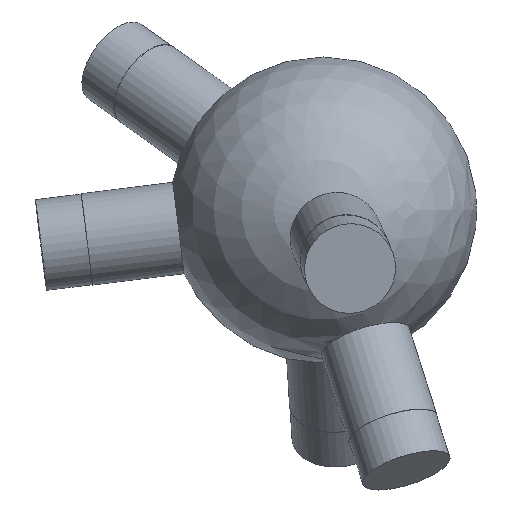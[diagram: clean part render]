
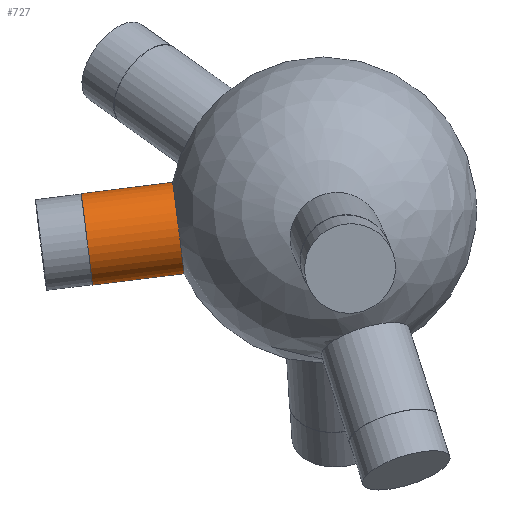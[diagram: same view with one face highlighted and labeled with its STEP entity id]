
A CAD part, top view. The second image highlights one B-rep face of the part: STEP entity #727.
In plain terms, the highlighted cylindrical face has radius 6 mm (diameter 12 mm), a full revolution.
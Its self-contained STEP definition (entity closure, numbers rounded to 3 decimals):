
#33 = SPHERICAL_SURFACE('',#34,20.);
#34 = AXIS2_PLACEMENT_3D('',#35,#36,#37);
#35 = CARTESIAN_POINT('',(0.,0.,0.));
#36 = DIRECTION('',(0.,0.,1.));
#37 = DIRECTION('',(1.,0.,-0.));
#385 = EDGE_CURVE('',#386,#386,#388,.T.);
#386 = VERTEX_POINT('',#387);
#387 = CARTESIAN_POINT('',(-18.198,-8.296,0.112
    ));
#388 = SURFACE_CURVE('',#389,(#394,#456),.PCURVE_S1.);
#389 = CIRCLE('',#390,6.);
#390 = AXIS2_PLACEMENT_3D('',#391,#392,#393);
#391 = CARTESIAN_POINT('',(-18.934,-2.341,
    0.112));
#392 = DIRECTION('',(-0.992,-0.123,0.006)
  );
#393 = DIRECTION('',(0.123,-0.992,0.));
#394 = PCURVE('',#33,#395);
#395 = DEFINITIONAL_REPRESENTATION('',(#396),#455);
#396 = B_SPLINE_CURVE_WITH_KNOTS('',8,(#397,#398,#399,#400,#401,#402,
    #403,#404,#405,#406,#407,#408,#409,#410,#411,#412,#413,#414,#415,
    #416,#417,#418,#419,#420,#421,#422,#423,#424,#425,#426,#427,#428,
    #429,#430,#431,#432,#433,#434,#435,#436,#437,#438,#439,#440,#441,
    #442,#443,#444,#445,#446,#447,#448,#449,#450,#451,#452,#453,#454),
  .UNSPECIFIED.,.F.,.F.,(9,7,7,7,7,7,7,7,9),(0.,0.785,
    1.473,2.074,3.126,3.915,
    4.507,5.395,6.283),.UNSPECIFIED.);
#397 = CARTESIAN_POINT('',(3.569,0.006));
#398 = CARTESIAN_POINT('',(3.569,0.035));
#399 = CARTESIAN_POINT('',(3.566,0.065));
#400 = CARTESIAN_POINT('',(3.56,0.094));
#401 = CARTESIAN_POINT('',(3.551,0.122));
#402 = CARTESIAN_POINT('',(3.538,0.149));
#403 = CARTESIAN_POINT('',(3.523,0.175));
#404 = CARTESIAN_POINT('',(3.504,0.198));
#405 = CARTESIAN_POINT('',(3.465,0.238));
#406 = CARTESIAN_POINT('',(3.445,0.255));
#407 = CARTESIAN_POINT('',(3.423,0.27));
#408 = CARTESIAN_POINT('',(3.4,0.283));
#409 = CARTESIAN_POINT('',(3.375,0.293));
#410 = CARTESIAN_POINT('',(3.349,0.301));
#411 = CARTESIAN_POINT('',(3.322,0.306));
#412 = CARTESIAN_POINT('',(3.272,0.311));
#413 = CARTESIAN_POINT('',(3.248,0.312));
#414 = CARTESIAN_POINT('',(3.224,0.31));
#415 = CARTESIAN_POINT('',(3.201,0.306));
#416 = CARTESIAN_POINT('',(3.178,0.3));
#417 = CARTESIAN_POINT('',(3.155,0.293));
#418 = CARTESIAN_POINT('',(3.134,0.283));
#419 = CARTESIAN_POINT('',(3.078,0.252));
#420 = CARTESIAN_POINT('',(3.046,0.227));
#421 = CARTESIAN_POINT('',(3.019,0.197));
#422 = CARTESIAN_POINT('',(2.996,0.164));
#423 = CARTESIAN_POINT('',(2.978,0.127));
#424 = CARTESIAN_POINT('',(2.967,0.089));
#425 = CARTESIAN_POINT('',(2.96,0.05));
#426 = CARTESIAN_POINT('',(2.96,-0.019));
#427 = CARTESIAN_POINT('',(2.962,-0.049));
#428 = CARTESIAN_POINT('',(2.968,-0.078));
#429 = CARTESIAN_POINT('',(2.977,-0.107));
#430 = CARTESIAN_POINT('',(2.99,-0.134));
#431 = CARTESIAN_POINT('',(3.005,-0.16));
#432 = CARTESIAN_POINT('',(3.023,-0.184));
#433 = CARTESIAN_POINT('',(3.059,-0.222));
#434 = CARTESIAN_POINT('',(3.076,-0.237));
#435 = CARTESIAN_POINT('',(3.094,-0.25));
#436 = CARTESIAN_POINT('',(3.114,-0.262));
#437 = CARTESIAN_POINT('',(3.134,-0.272));
#438 = CARTESIAN_POINT('',(3.156,-0.281));
#439 = CARTESIAN_POINT('',(3.178,-0.288));
#440 = CARTESIAN_POINT('',(3.235,-0.299));
#441 = CARTESIAN_POINT('',(3.27,-0.302));
#442 = CARTESIAN_POINT('',(3.305,-0.3));
#443 = CARTESIAN_POINT('',(3.34,-0.294));
#444 = CARTESIAN_POINT('',(3.374,-0.284));
#445 = CARTESIAN_POINT('',(3.405,-0.269));
#446 = CARTESIAN_POINT('',(3.434,-0.251));
#447 = CARTESIAN_POINT('',(3.486,-0.208));
#448 = CARTESIAN_POINT('',(3.509,-0.183));
#449 = CARTESIAN_POINT('',(3.529,-0.155));
#450 = CARTESIAN_POINT('',(3.545,-0.125));
#451 = CARTESIAN_POINT('',(3.557,-0.094));
#452 = CARTESIAN_POINT('',(3.565,-0.061));
#453 = CARTESIAN_POINT('',(3.569,-0.028));
#454 = CARTESIAN_POINT('',(3.569,0.006));
#455 = ( GEOMETRIC_REPRESENTATION_CONTEXT(2) 
PARAMETRIC_REPRESENTATION_CONTEXT() REPRESENTATION_CONTEXT('2D SPACE',''
  ) );
#456 = PCURVE('',#457,#462);
#457 = CYLINDRICAL_SURFACE('',#458,6.);
#458 = AXIS2_PLACEMENT_3D('',#459,#460,#461);
#459 = CARTESIAN_POINT('',(0.,0.,0.));
#460 = DIRECTION('',(-0.992,-0.123,0.006)
  );
#461 = DIRECTION('',(0.123,-0.992,0.));
#462 = DEFINITIONAL_REPRESENTATION('',(#463),#467);
#463 = LINE('',#464,#465);
#464 = CARTESIAN_POINT('',(0.,19.079));
#465 = VECTOR('',#466,1.);
#466 = DIRECTION('',(1.,0.));
#467 = ( GEOMETRIC_REPRESENTATION_CONTEXT(2) 
PARAMETRIC_REPRESENTATION_CONTEXT() REPRESENTATION_CONTEXT('2D SPACE',''
  ) );
#727 = ADVANCED_FACE('',(#728),#457,.T.);
#728 = FACE_BOUND('',#729,.T.);
#729 = EDGE_LOOP('',(#730,#753,#780,#781));
#730 = ORIENTED_EDGE('',*,*,#731,.T.);
#731 = EDGE_CURVE('',#386,#732,#734,.T.);
#732 = VERTEX_POINT('',#733);
#733 = CARTESIAN_POINT('',(-30.124,-9.77,
    0.183));
#734 = SEAM_CURVE('',#735,(#739,#746),.PCURVE_S1.);
#735 = LINE('',#736,#737);
#736 = CARTESIAN_POINT('',(0.736,-5.955,
    0.));
#737 = VECTOR('',#738,1.);
#738 = DIRECTION('',(-0.992,-0.123,0.006)
  );
#739 = PCURVE('',#457,#740);
#740 = DEFINITIONAL_REPRESENTATION('',(#741),#745);
#741 = LINE('',#742,#743);
#742 = CARTESIAN_POINT('',(6.283,-0.));
#743 = VECTOR('',#744,1.);
#744 = DIRECTION('',(0.,1.));
#745 = ( GEOMETRIC_REPRESENTATION_CONTEXT(2) 
PARAMETRIC_REPRESENTATION_CONTEXT() REPRESENTATION_CONTEXT('2D SPACE',''
  ) );
#746 = PCURVE('',#457,#747);
#747 = DEFINITIONAL_REPRESENTATION('',(#748),#752);
#748 = LINE('',#749,#750);
#749 = CARTESIAN_POINT('',(0.,-0.));
#750 = VECTOR('',#751,1.);
#751 = DIRECTION('',(0.,1.));
#752 = ( GEOMETRIC_REPRESENTATION_CONTEXT(2) 
PARAMETRIC_REPRESENTATION_CONTEXT() REPRESENTATION_CONTEXT('2D SPACE',''
  ) );
#753 = ORIENTED_EDGE('',*,*,#754,.F.);
#754 = EDGE_CURVE('',#732,#732,#755,.T.);
#755 = SURFACE_CURVE('',#756,(#761,#768),.PCURVE_S1.);
#756 = CIRCLE('',#757,6.);
#757 = AXIS2_PLACEMENT_3D('',#758,#759,#760);
#758 = CARTESIAN_POINT('',(-30.861,-3.815,0.183
    ));
#759 = DIRECTION('',(-0.992,-0.123,0.006)
  );
#760 = DIRECTION('',(0.123,-0.992,0.)
  );
#761 = PCURVE('',#457,#762);
#762 = DEFINITIONAL_REPRESENTATION('',(#763),#767);
#763 = LINE('',#764,#765);
#764 = CARTESIAN_POINT('',(0.,31.096));
#765 = VECTOR('',#766,1.);
#766 = DIRECTION('',(1.,0.));
#767 = ( GEOMETRIC_REPRESENTATION_CONTEXT(2) 
PARAMETRIC_REPRESENTATION_CONTEXT() REPRESENTATION_CONTEXT('2D SPACE',''
  ) );
#768 = PCURVE('',#769,#774);
#769 = PLANE('',#770);
#770 = AXIS2_PLACEMENT_3D('',#771,#772,#773);
#771 = CARTESIAN_POINT('',(-30.861,-3.815,0.183
    ));
#772 = DIRECTION('',(-0.992,-0.123,0.006)
  );
#773 = DIRECTION('',(0.123,-0.992,0.));
#774 = DEFINITIONAL_REPRESENTATION('',(#775),#779);
#775 = CIRCLE('',#776,6.);
#776 = AXIS2_PLACEMENT_2D('',#777,#778);
#777 = CARTESIAN_POINT('',(0.,0.));
#778 = DIRECTION('',(1.,0.));
#779 = ( GEOMETRIC_REPRESENTATION_CONTEXT(2) 
PARAMETRIC_REPRESENTATION_CONTEXT() REPRESENTATION_CONTEXT('2D SPACE',''
  ) );
#780 = ORIENTED_EDGE('',*,*,#731,.F.);
#781 = ORIENTED_EDGE('',*,*,#385,.T.);
